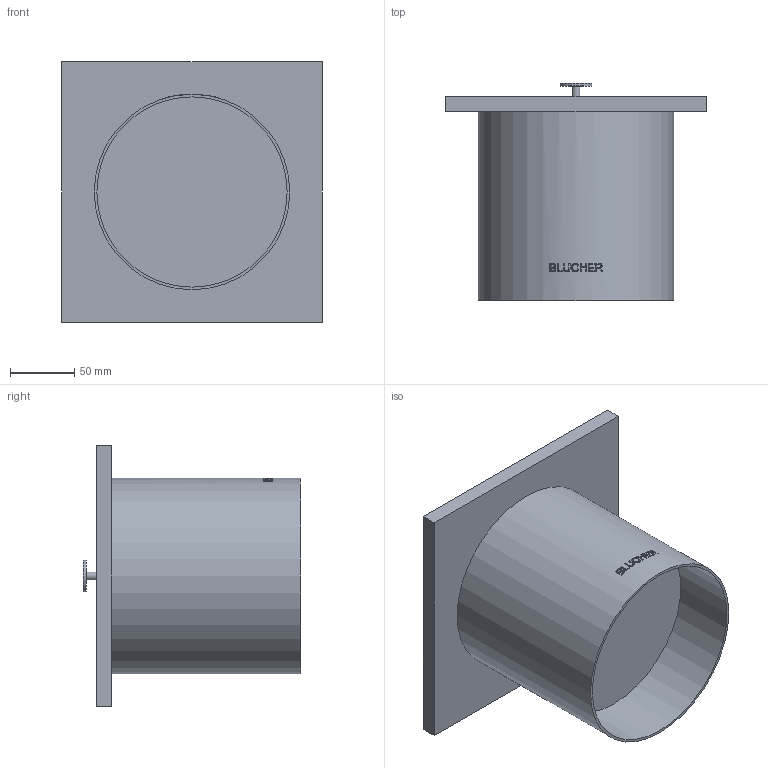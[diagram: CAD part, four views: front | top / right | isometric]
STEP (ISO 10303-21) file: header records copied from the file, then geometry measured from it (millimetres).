
FILE_DESCRIPTION((''),'2;1');
FILE_NAME('C:\Drawings\3D_CAD_Models\Blucher\BCO_Clean Outs_Complete_091119\BCO-100\WebsiteFiles\3D\STEP\BCO-116.stp','2009-11-23T14:07:45',('hofmansp'),(''),'Autodesk Inventor 2010','Autodesk Inventor 2010','');
FILE_SCHEMA(('AUTOMOTIVE_DESIGN { 1 0 10303 214 1 1 1 1 }'));
Length unit declared in the file: inch
Products named in the file (1): BCO-116
Bounding box: 203.2 x 169.16 x 203.2 mm (x, y, z)
Volume: 2298922.6 mm3; surface area: 187657.2 mm2
Topology: 1 solids, 1 shells, 112 faces, 288 edges, 192 vertices
Faces by surface type: plane 64, bspline 34, cylinder 14
Full cylindrical faces by diameter (mm): 6.096 x1, 24.892 x1, 148.336 x1, 152.4 x1
Entity records: 13936 total; most frequent: CARTESIAN_POINT 11470, ORIENTED_EDGE 568, DIRECTION 372, EDGE_CURVE 284, VERTEX_POINT 192, EDGE_LOOP 130, VECTOR 128, LINE 128
